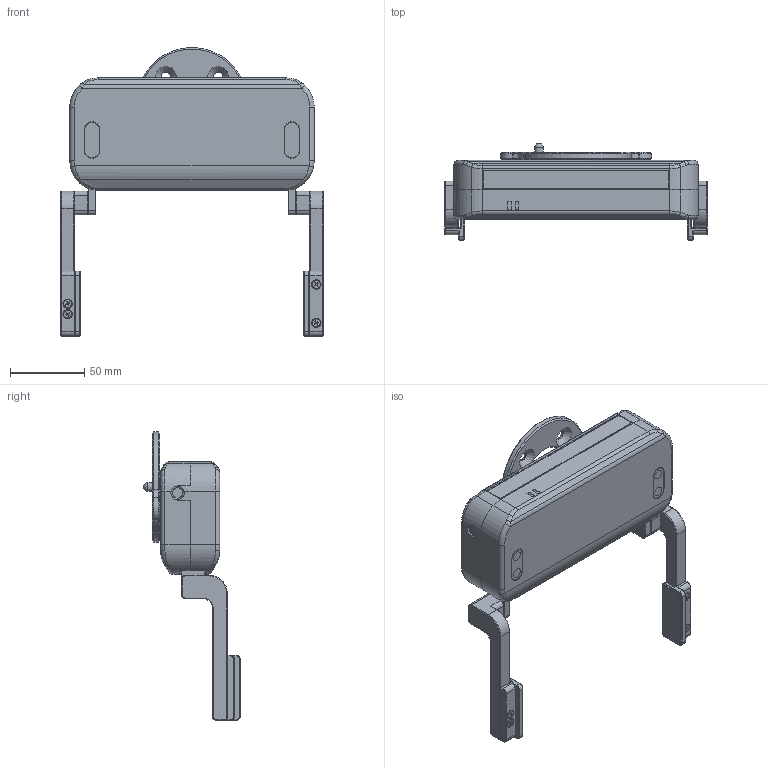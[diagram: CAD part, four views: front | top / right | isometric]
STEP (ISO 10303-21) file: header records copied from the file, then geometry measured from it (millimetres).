
FILE_DESCRIPTION (( 'STEP AP203' ), '1' );
FILE_NAME ('BIO Gripper G2£¨AB1100 £©20260512.STEP', '2026-05-12T03:21:04', ( '' ), ( '' ), 'SwSTEP 2.0', 'SolidWorks 2016', '' );
FILE_SCHEMA (( 'CONFIG_CONTROL_DESIGN' ));
Length unit declared in the file: millimetre
Products named in the file (1): BIO Gripper G2（AB1100 ）20260512
Bounding box: 177 x 65.5 x 194.86 mm (x, y, z)
Volume: 402982.2 mm3; surface area: 132118.3 mm2
Topology: 53 solids, 55 shells, 1663 faces, 4148 edges, 2631 vertices
Faces by surface type: plane 880, cylinder 453, cone 200, bspline 130
Full cylindrical faces by diameter (mm): 1.2 x4, 2.5 x13, 3 x37, 3.2 x21, 3.5 x9, 4 x12, 4.2 x1, 5.36 x22, 5.5 x7, 6 x10, 6.2 x6, 10.9 x2, 32 x1
Entity records: 52852 total; most frequent: CARTESIAN_POINT 15366, DIRECTION 7565, ORIENTED_EDGE 7480, EDGE_CURVE 3740, AXIS2_PLACEMENT_3D 2593, VERTEX_POINT 2506, VECTOR 2379, LINE 2379
